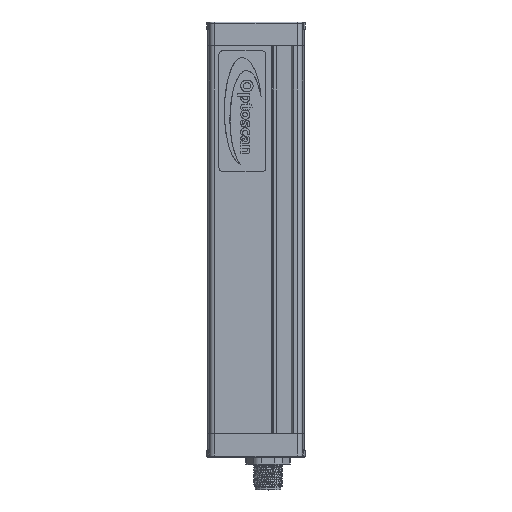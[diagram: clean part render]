
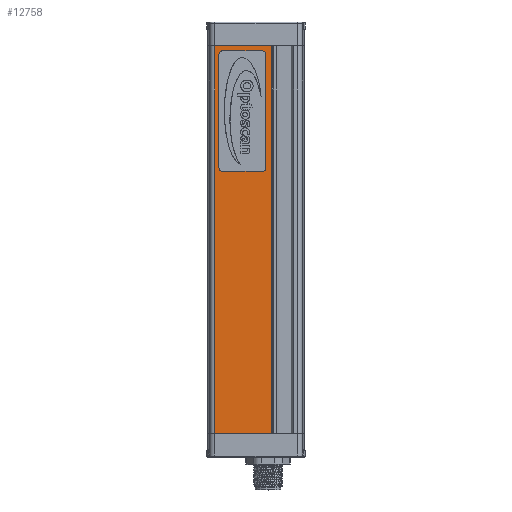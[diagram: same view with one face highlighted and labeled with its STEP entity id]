
A CAD part, top view. The second image highlights one B-rep face of the part: STEP entity #12758.
In plain terms, the highlighted planar face has unit normal (0, 0, 1).
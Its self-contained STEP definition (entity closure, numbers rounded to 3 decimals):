
#144=FACE_BOUND('',#1993,.T.);
#442=CIRCLE('',#13583,1.49);
#443=CIRCLE('',#13584,1.49);
#444=CIRCLE('',#13585,1.49);
#445=CIRCLE('',#13586,1.49);
#947=PLANE('',#13582);
#1296=FACE_OUTER_BOUND('',#1992,.T.);
#1992=EDGE_LOOP('',(#8616,#8617,#8618,#8619));
#1993=EDGE_LOOP('',(#8620,#8621,#8622,#8623,#8624,#8625,#8626,#8627));
#3049=LINE('',#19136,#4070);
#3061=LINE('',#19170,#4082);
#3075=LINE('',#19207,#4096);
#3076=LINE('',#19208,#4097);
#3077=LINE('',#19213,#4098);
#3078=LINE('',#19217,#4099);
#3079=LINE('',#19221,#4100);
#3080=LINE('',#19224,#4101);
#4070=VECTOR('',#15137,10.);
#4082=VECTOR('',#15161,10.);
#4096=VECTOR('',#15189,10.);
#4097=VECTOR('',#15190,10.);
#4098=VECTOR('',#15193,10.);
#4099=VECTOR('',#15196,10.);
#4100=VECTOR('',#15199,10.);
#4101=VECTOR('',#15202,10.);
#5203=VERTEX_POINT('',#19133);
#5204=VERTEX_POINT('',#19135);
#5219=VERTEX_POINT('',#19167);
#5220=VERTEX_POINT('',#19169);
#5237=VERTEX_POINT('',#19209);
#5238=VERTEX_POINT('',#19210);
#5239=VERTEX_POINT('',#19212);
#5240=VERTEX_POINT('',#19214);
#5241=VERTEX_POINT('',#19216);
#5242=VERTEX_POINT('',#19218);
#5243=VERTEX_POINT('',#19220);
#5244=VERTEX_POINT('',#19222);
#6497=EDGE_CURVE('',#5203,#5204,#3049,.T.);
#6513=EDGE_CURVE('',#5220,#5219,#3061,.T.);
#6531=EDGE_CURVE('',#5219,#5204,#3075,.T.);
#6532=EDGE_CURVE('',#5220,#5203,#3076,.T.);
#6533=EDGE_CURVE('',#5237,#5238,#442,.T.);
#6534=EDGE_CURVE('',#5239,#5237,#3077,.T.);
#6535=EDGE_CURVE('',#5240,#5239,#443,.T.);
#6536=EDGE_CURVE('',#5241,#5240,#3078,.T.);
#6537=EDGE_CURVE('',#5242,#5241,#444,.T.);
#6538=EDGE_CURVE('',#5243,#5242,#3079,.T.);
#6539=EDGE_CURVE('',#5244,#5243,#445,.T.);
#6540=EDGE_CURVE('',#5238,#5244,#3080,.T.);
#8616=ORIENTED_EDGE('',*,*,#6513,.T.);
#8617=ORIENTED_EDGE('',*,*,#6531,.T.);
#8618=ORIENTED_EDGE('',*,*,#6497,.F.);
#8619=ORIENTED_EDGE('',*,*,#6532,.F.);
#8620=ORIENTED_EDGE('',*,*,#6533,.F.);
#8621=ORIENTED_EDGE('',*,*,#6534,.F.);
#8622=ORIENTED_EDGE('',*,*,#6535,.F.);
#8623=ORIENTED_EDGE('',*,*,#6536,.F.);
#8624=ORIENTED_EDGE('',*,*,#6537,.F.);
#8625=ORIENTED_EDGE('',*,*,#6538,.F.);
#8626=ORIENTED_EDGE('',*,*,#6539,.F.);
#8627=ORIENTED_EDGE('',*,*,#6540,.F.);
#12758=ADVANCED_FACE('',(#1296,#144),#947,.T.);
#13582=AXIS2_PLACEMENT_3D('',#19206,#15187,#15188);
#13583=AXIS2_PLACEMENT_3D('',#19211,#15191,#15192);
#13584=AXIS2_PLACEMENT_3D('',#19215,#15194,#15195);
#13585=AXIS2_PLACEMENT_3D('',#19219,#15197,#15198);
#13586=AXIS2_PLACEMENT_3D('',#19223,#15200,#15201);
#15137=DIRECTION('',(1.,0.,0.));
#15161=DIRECTION('',(1.,0.,0.));
#15187=DIRECTION('center_axis',(0.,0.,
1.));
#15188=DIRECTION('ref_axis',(1.,0.,0.));
#15189=DIRECTION('',(0.,1.,0.));
#15190=DIRECTION('',(0.,1.,0.));
#15191=DIRECTION('center_axis',(0.,0.,
1.));
#15192=DIRECTION('ref_axis',(0.707,0.707,0.));
#15193=DIRECTION('',(0.,1.,0.));
#15194=DIRECTION('center_axis',(0.,0.,
1.));
#15195=DIRECTION('ref_axis',(0.707,-0.707,0.));
#15196=DIRECTION('',(1.,0.,0.));
#15197=DIRECTION('center_axis',(0.,0.,
1.));
#15198=DIRECTION('ref_axis',(-0.707,-0.707,0.));
#15199=DIRECTION('',(0.,-1.,0.));
#15200=DIRECTION('center_axis',(0.,0.,
1.));
#15201=DIRECTION('ref_axis',(-0.707,0.707,0.));
#15202=DIRECTION('',(-1.,0.,0.));
#19133=CARTESIAN_POINT('',(-12.565,160.,1.277));
#19135=CARTESIAN_POINT('',(10.736,160.,1.277));
#19136=CARTESIAN_POINT('',(-12.565,160.,1.277));
#19167=CARTESIAN_POINT('',(10.736,0.,1.277));
#19169=CARTESIAN_POINT('',(-12.565,0.,1.277));
#19170=CARTESIAN_POINT('',(-12.565,0.,1.277));
#19206=CARTESIAN_POINT('Origin',(-12.565,0.,
1.277));
#19207=CARTESIAN_POINT('',(10.736,0.,1.277));
#19208=CARTESIAN_POINT('',(-12.565,0.,1.277));
#19209=CARTESIAN_POINT('',(8.576,156.5,1.277));
#19210=CARTESIAN_POINT('',(7.086,157.99,1.277));
#19211=CARTESIAN_POINT('Origin',(7.086,156.5,1.277));
#19212=CARTESIAN_POINT('',(8.576,109.7,1.277));
#19213=CARTESIAN_POINT('',(8.576,121.4,1.277));
#19214=CARTESIAN_POINT('',(7.086,108.21,1.277));
#19215=CARTESIAN_POINT('Origin',(7.086,109.7,1.277));
#19216=CARTESIAN_POINT('',(-9.314,108.21,1.277));
#19217=CARTESIAN_POINT('',(-5.214,108.21,1.277));
#19218=CARTESIAN_POINT('',(-10.804,109.7,1.277));
#19219=CARTESIAN_POINT('Origin',(-9.314,109.7,1.277));
#19220=CARTESIAN_POINT('',(-10.804,156.5,1.277));
#19221=CARTESIAN_POINT('',(-10.804,144.8,1.277));
#19222=CARTESIAN_POINT('',(-9.314,157.99,1.277));
#19223=CARTESIAN_POINT('Origin',(-9.314,156.5,1.277));
#19224=CARTESIAN_POINT('',(2.986,157.99,1.277));
